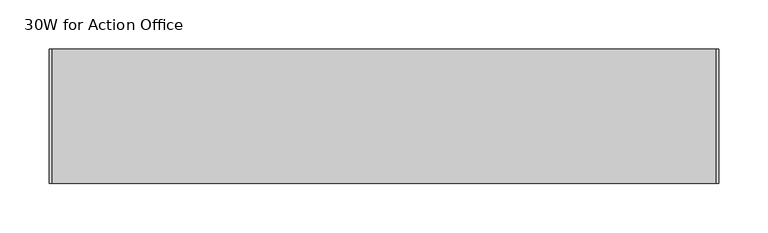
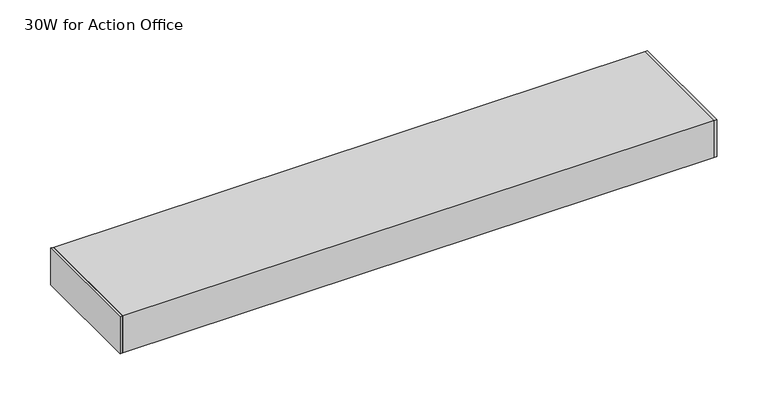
"""IFC4 building model written with IfcOpenShell, lengths in millimetres: light fixture geometry, HermanMiller_SupplementalProducts_G6170_EUnderShelfLEDTaskLight : 30W for Action Office."""

from ifc_helpers import new_model, si_unit, point, frame, frame_2d, origin, place, context, project, spatial, polyline, circle_curve, trimmed, segment, composite_curve, outline, extrude, source, transform, mapped, element, save


def light_fixture_30w_for_action_office_7d6e6015(model_context):
    return source(origin(), model_context, "Body", "SweptSolid", [
        extrude(outline(composite_curve([segment(trimmed(circle_curve(frame_2d((-4.699, 1336.1304666)), 9.525), [point((-14.224, 1336.1304666))], [point((4.826, 1336.1304666))], False, "CARTESIAN"), True, "CONTINUOUS"), segment(trimmed(circle_curve(frame_2d((-4.699, 1336.1304666)), 9.525), [point((4.826, 1336.1304666))], [point((-14.224, 1336.1304666))], False, "CARTESIAN"), True, "CONTINUOUS")], self_intersect=False)), frame((314.325, 0.0, 0.0), z_axis=(1.0, 0.0, 0.0), x_axis=(0.0, 1.0, 0.0)), (0.0, 0.0, 1.0), 12.7),
        extrude(outline(composite_curve([segment(trimmed(circle_curve(frame_2d((-4.699, 1336.1304666)), 9.525), [point((-14.224, 1336.1304666))], [point((4.826, 1336.1304666))], False, "CARTESIAN"), True, "CONTINUOUS"), segment(trimmed(circle_curve(frame_2d((-4.699, 1336.1304666)), 9.525), [point((4.826, 1336.1304666))], [point((-14.224, 1336.1304666))], False, "CARTESIAN"), True, "CONTINUOUS")], self_intersect=False)), frame((-327.025, 0.0, 0.0), z_axis=(1.0, 0.0, 0.0), x_axis=(0.0, 1.0, 0.0)), (0.0, 0.0, 1.0), 12.7),
        extrude(outline(composite_curve([segment(trimmed(circle_curve(frame_2d((-4.699, 1336.1304666)), 9.525), [point((-14.224, 1336.1304666))], [point((4.826, 1336.1304666))], False, "CARTESIAN"), True, "CONTINUOUS"), segment(trimmed(circle_curve(frame_2d((-4.699, 1336.1304666)), 9.525), [point((4.826, 1336.1304666))], [point((-14.224, 1336.1304666))], False, "CARTESIAN"), True, "CONTINUOUS")], self_intersect=False)), frame((-314.325, 0.0, 0.0), z_axis=(1.0, 0.0, 0.0), x_axis=(0.0, 1.0, 0.0)), (0.0, 0.0, 1.0), 628.65),
        extrude(outline(polyline([(336.55, 68.326), (336.55, -68.326), (-336.55, -68.326), (-336.55, 68.326), (336.55, 68.326)])), frame((0.0, 0.0, 1305.9679666), z_axis=(0.0, 0.0, 1.0), x_axis=(1.0, 0.0, 0.0)), (0.0, 0.0, 1.0), 44.45),
        extrude(outline(polyline([(336.55, -68.326), (336.55, 68.326), (339.725, 68.326), (339.725, -68.326), (336.55, -68.326)])), frame((0.0, 0.0, 1305.9679666), z_axis=(0.0, 0.0, 1.0), x_axis=(1.0, 0.0, 0.0)), (0.0, 0.0, 1.0), 44.45),
        extrude(outline(polyline([(-336.55, 68.326), (-336.55, -68.326), (-339.725, -68.326), (-339.725, 68.326), (-336.55, 68.326)])), frame((0.0, 0.0, 1305.9679666), z_axis=(0.0, 0.0, 1.0), x_axis=(1.0, 0.0, 0.0)), (0.0, 0.0, 1.0), 44.45),
    ])


if __name__ == "__main__":
    model = new_model("IFC4")
    model_context = context("Model", 3, world=origin())
    ifc_project = project(units=[si_unit("LENGTHUNIT", "METRE", prefix="MILLI")], contexts=[model_context])
    site = spatial("IfcSite", under=ifc_project)
    building = spatial("IfcBuilding", under=site)
    placement = place(None, origin())
    light_fixture_30w_for_action_office_shape = light_fixture_30w_for_action_office_7d6e6015(model_context)
    element("IfcLightFixture", 1, ObjectType="HermanMiller_SupplementalProducts_G6170_EUnderShelfLEDTaskLight : 30W for Action Office", at=placement, inside=building, context=model_context, shape_type="MappedRepresentation", body=[
        mapped(light_fixture_30w_for_action_office_shape, transform((0.0, 0.0, 0.0), x_axis=(1.0, 0.0, 0.0), y_axis=(0.0, 1.0, 0.0), z_axis=(0.0, 0.0, 1.0))),
    ])
    save(model, "model.ifc")
